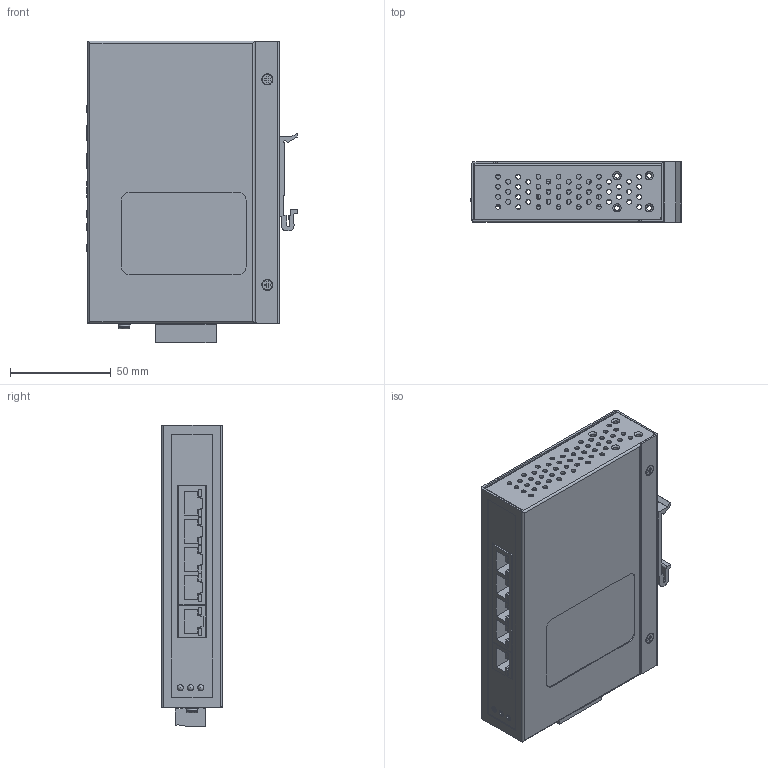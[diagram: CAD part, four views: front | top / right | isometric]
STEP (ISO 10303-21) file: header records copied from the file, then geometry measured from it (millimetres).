
FILE_DESCRIPTION( ( '' ), ' ' );
FILE_NAME( '/vol/tmp/translate-3574515444995395846/5e584bcdee7c6314c0bd6095.step', '2020-02-27T23:07:58', ( '' ), ( '' ), ' ', ' ', ' ' );
FILE_SCHEMA( ( 'AUTOMOTIVE_DESIGN { 1 0 10303 214 1 1 1 1 }' ) );
Length unit declared in the file: metre
Products named in the file (26): Socket; LED; Connector - Single; Connector - 4 port; Housing; DIN Clip; Connector--13; Connector-12; Connector-11; Connector-10; Connector-09; Connector-08; Connector-07; Connector-06; Connector-05; Connector-04; Connector-03; Connector-02; Connector-01; Screw-6; Screw-5; Screw-4; Screw-3; Screw-2; Screw-1; Rear Cover
Bounding box: 104.3 x 30 x 149.77 mm (x, y, z)
Volume: 64455.7 mm3; surface area: 104589.8 mm2
Topology: 13 solids, 347 shells, 1549 faces, 4807 edges, 3647 vertices
Faces by surface type: plane 936, cylinder 463, torus 76, sphere 33, cone 27, bspline 12, revolution 2
Full cylindrical faces by diameter (mm): 0.5 x6, 0.609 x1, 1.4 x6, 1.5 x1, 2.4 x76, 2.5 x18, 2.8 x10, 2.9 x8, 3 x11, 3.5 x2, 3.783 x6, 4 x9, 4.1 x14, 5 x5, 5.4 x4, 5.5 x1
Entity records: 68109 total; most frequent: CARTESIAN_POINT 13727, DIRECTION 8738, ORIENTED_EDGE 7388, EDGE_CURVE 4476, VERTEX_POINT 3569, LINE 3082, VECTOR 3082, AXIS2_PLACEMENT_3D 2827
